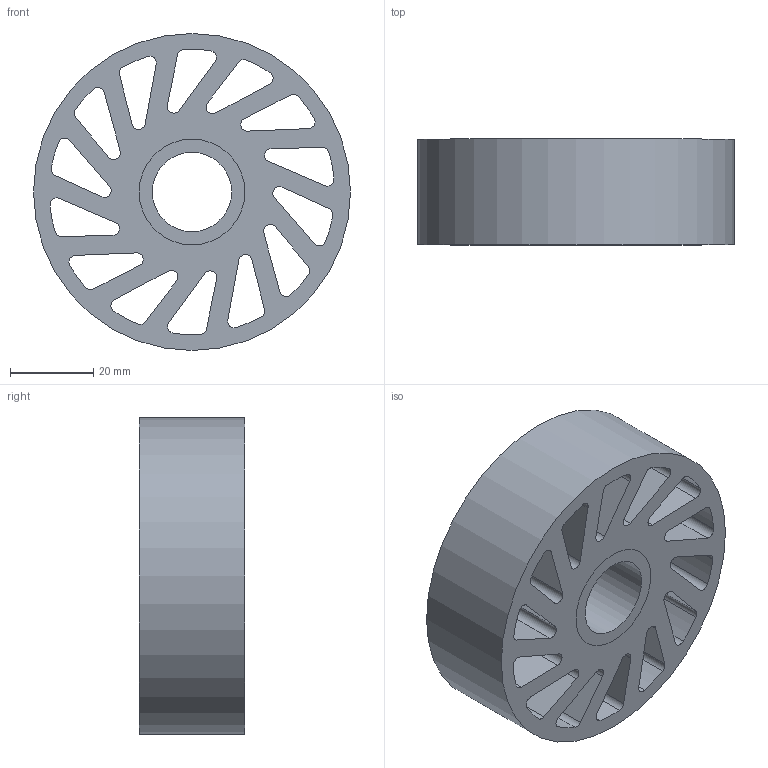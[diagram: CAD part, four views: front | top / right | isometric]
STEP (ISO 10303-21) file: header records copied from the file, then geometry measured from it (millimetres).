
FILE_DESCRIPTION(/* description */ (''),/* implementation_level */ '2;1');
FILE_NAME(/* name */ 'C:\Users\Owner\Desktop\Meridian Stuff\Oilite\NCWOB-680-XXX.stp',/* time_stamp */ '2023-05-22T16:44:50-05:00',/* author */ ('ASG'),/* organization */ ('Meridian Laboratory '),/* preprocessor_version */ 'ST-DEVELOPER v19',/* originating_system */ 'Autodesk Inventor 2023',/* authorisation */ '');
FILE_SCHEMA (('AUTOMOTIVE_DESIGN { 1 0 10303 214 3 1 1 }'));
Length unit declared in the file: inch
Products named in the file (1): NCWOB-640-XXX
Bounding box: 76.2 x 25.4 x 76.2 mm (x, y, z)
Volume: 73219.6 mm3; surface area: 32799.3 mm2
Topology: 2 solids, 2 shells, 92 faces, 264 edges, 176 vertices
Faces by surface type: cylinder 60, plane 32
Full cylindrical faces by diameter (mm): 19.101 x1, 25.4 x2, 76.2 x1
Entity records: 3285 total; most frequent: DIRECTION 570, CARTESIAN_POINT 533, ORIENTED_EDGE 528, EDGE_CURVE 264, AXIS2_PLACEMENT_3D 213, VERTEX_POINT 176, LINE 144, VECTOR 144
